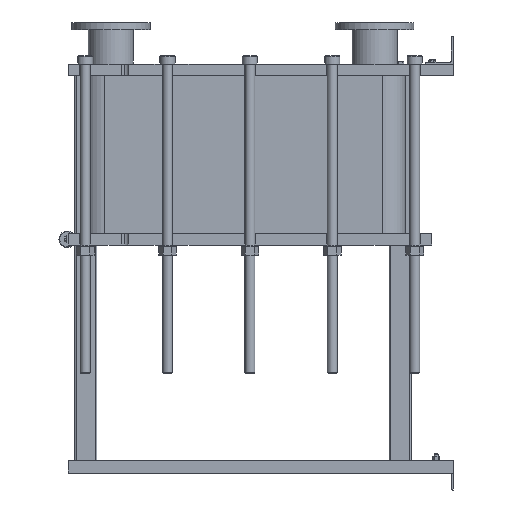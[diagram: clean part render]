
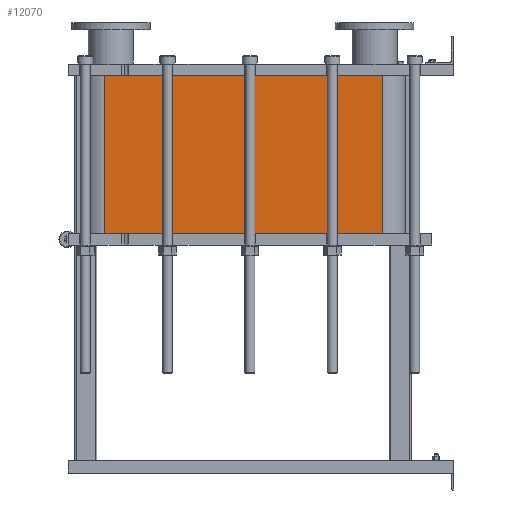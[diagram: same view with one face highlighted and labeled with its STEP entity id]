
A CAD part, left-side view. The second image highlights one B-rep face of the part: STEP entity #12070.
In plain terms, the highlighted planar face has unit normal (-1, 0, 0).
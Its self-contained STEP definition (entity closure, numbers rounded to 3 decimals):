
#1064=LINE('',#21140,#2164);
#1065=LINE('',#21144,#2165);
#1066=LINE('',#21146,#2166);
#1067=LINE('',#21147,#2167);
#2164=VECTOR('',#15790,10.);
#2165=VECTOR('',#15795,10.);
#2166=VECTOR('',#15796,10.);
#2167=VECTOR('',#15797,10.);
#3304=FACE_OUTER_BOUND('',#4091,.T.);
#4091=EDGE_LOOP('',(#9793,#9794,#9795,#9796));
#5677=VERTEX_POINT('',#21137);
#5678=VERTEX_POINT('',#21139);
#5679=VERTEX_POINT('',#21143);
#5680=VERTEX_POINT('',#21145);
#7118=EDGE_CURVE('',#5678,#5677,#1064,.T.);
#7120=EDGE_CURVE('',#5677,#5679,#1065,.T.);
#7121=EDGE_CURVE('',#5680,#5679,#1066,.T.);
#7122=EDGE_CURVE('',#5680,#5678,#1067,.T.);
#9793=ORIENTED_EDGE('',*,*,#7120,.T.);
#9794=ORIENTED_EDGE('',*,*,#7121,.F.);
#9795=ORIENTED_EDGE('',*,*,#7122,.T.);
#9796=ORIENTED_EDGE('',*,*,#7118,.T.);
#11441=PLANE('',#13191);
#12070=ADVANCED_FACE('',(#3304),#11441,.T.);
#13191=AXIS2_PLACEMENT_3D('',#21142,#15793,#15794);
#15790=DIRECTION('',(0.,0.,-1.));
#15793=DIRECTION('center_axis',(-1.,0.,0.));
#15794=DIRECTION('ref_axis',(0.,1.,0.));
#15795=DIRECTION('',(0.,-1.,0.));
#15796=DIRECTION('',(0.,0.,-1.));
#15797=DIRECTION('',(0.,1.,0.));
#21137=CARTESIAN_POINT('',(-248.152,1243.818,-565.8));
#21139=CARTESIAN_POINT('',(-248.152,1243.818,0.));
#21140=CARTESIAN_POINT('',(-248.152,1243.818,0.));
#21142=CARTESIAN_POINT('Origin',(-248.152,251.818,0.));
#21143=CARTESIAN_POINT('',(-248.152,251.818,-565.8));
#21144=CARTESIAN_POINT('',(-248.152,499.818,-565.8));
#21145=CARTESIAN_POINT('',(-248.152,251.818,0.));
#21146=CARTESIAN_POINT('',(-248.152,251.818,0.));
#21147=CARTESIAN_POINT('',(-248.152,251.818,0.));
